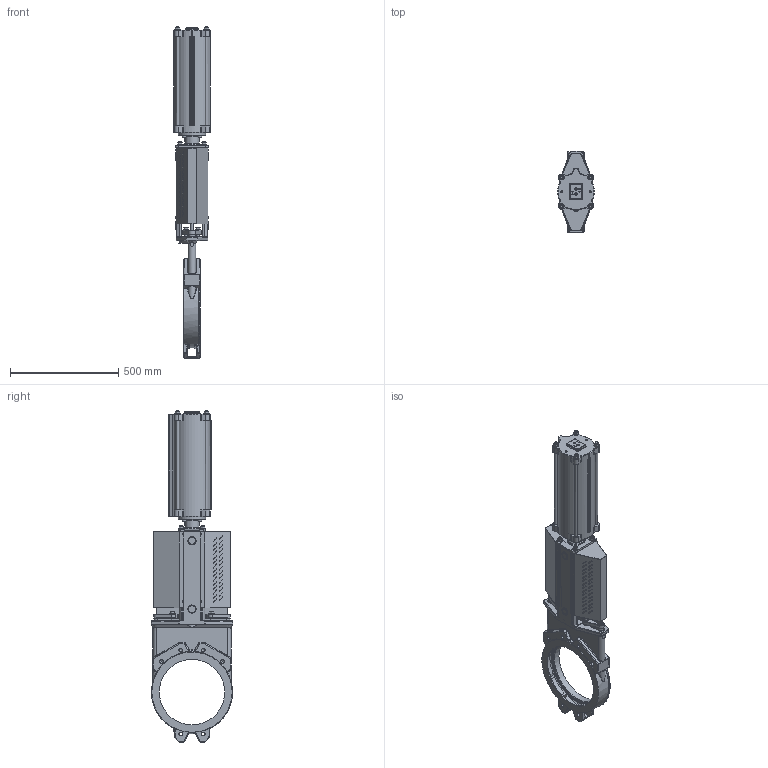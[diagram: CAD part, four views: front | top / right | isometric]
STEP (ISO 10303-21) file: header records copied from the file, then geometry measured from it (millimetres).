
FILE_DESCRIPTION(/* description */ (''),/* implementation_level */ '2;1');
FILE_NAME(/* name */ 'F:\Emir\3D-block special\MV VALVE\PNEUMATIC ACTUATOR\MV-DN300-PN10-FRSC160-320.stp',/* time_stamp */ '2018-04-10T16:11:50+02:00',/* author */ ('emimus'),/* organization */ (''),/* preprocessor_version */ 'ST-DEVELOPER v17',/* originating_system */ 'Autodesk Inventor 2018',/* authorisation */ '');
FILE_SCHEMA (('CONFIG_CONTROL_DESIGN'));
Products named in the file (1): MV-DN300-PN10-FRSC160-320
Bounding box: 170 x 375 x 1531 mm (x, y, z)
Volume: 10821348.7 mm3; surface area: 2885363.1 mm2
Topology: 1 solids, 1 shells, 2534 faces, 6674 edges, 4116 vertices
Faces by surface type: plane 926, cylinder 770, bspline 287, cone 232, torus 208, sphere 111
Full cylindrical faces by diameter (mm): 4 x6, 4.134 x4, 4.2 x16, 4.5 x4, 4.917 x4, 6.647 x1, 8 x4, 8.376 x2, 9.5 x4, 10 x11, 10.106 x8, 11.445 x2, 12 x24, 13 x15, 15 x8, 15.24 x2, 16 x6, 17.294 x12, 17.7 x1, 18 x4, 18.5 x1, 20 x1, 24 x16, 28 x5, 30 x1, 30.1 x2, 34 x1, 35 x1, 36 x1, 36.4 x1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
Entity records: 89469 total; most frequent: CARTESIAN_POINT 28619, ORIENTED_EDGE 13046, DIRECTION 12526, EDGE_CURVE 6523, AXIS2_PLACEMENT_3D 4966, VERTEX_POINT 4116, EDGE_LOOP 2873, LINE 2594
